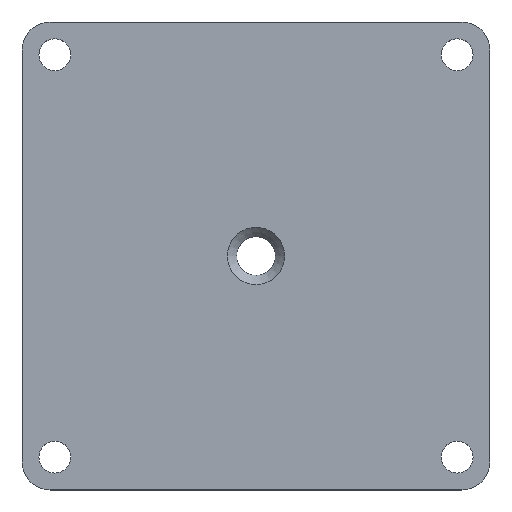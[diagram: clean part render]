
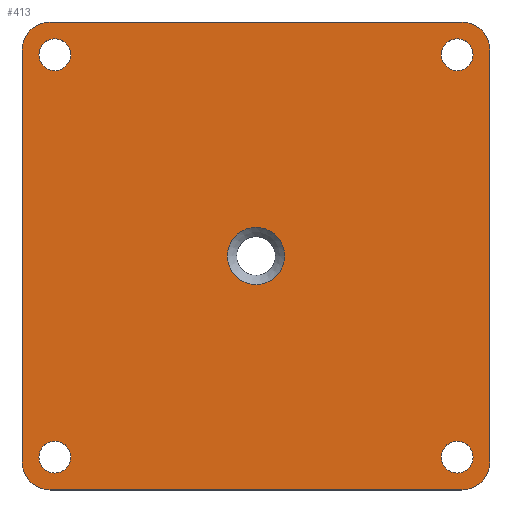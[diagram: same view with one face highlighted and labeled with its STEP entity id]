
A CAD part, top view. The second image highlights one B-rep face of the part: STEP entity #413.
In plain terms, the highlighted planar face has unit normal (0, 0, 1).
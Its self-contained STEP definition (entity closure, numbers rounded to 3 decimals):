
#15=FACE_BOUND('',#84,.T.);
#16=FACE_BOUND('',#85,.T.);
#17=FACE_BOUND('',#86,.T.);
#18=FACE_BOUND('',#87,.T.);
#19=FACE_BOUND('',#88,.T.);
#30=PLANE('',#462);
#57=FACE_OUTER_BOUND('',#83,.T.);
#83=EDGE_LOOP('',(#306,#307,#308,#309,#310,#311,#312,#313));
#84=EDGE_LOOP('',(#314));
#85=EDGE_LOOP('',(#315));
#86=EDGE_LOOP('',(#316));
#87=EDGE_LOOP('',(#317));
#88=EDGE_LOOP('',(#318));
#124=LINE('',#667,#151);
#125=LINE('',#671,#152);
#126=LINE('',#675,#153);
#127=LINE('',#678,#154);
#151=VECTOR('',#530,10.);
#152=VECTOR('',#533,10.);
#153=VECTOR('',#536,10.);
#154=VECTOR('',#539,10.);
#176=CIRCLE('',#458,3.067);
#179=CIRCLE('',#463,3.);
#180=CIRCLE('',#464,3.);
#181=CIRCLE('',#465,3.);
#182=CIRCLE('',#466,3.);
#183=CIRCLE('',#467,1.7);
#184=CIRCLE('',#468,1.7);
#185=CIRCLE('',#469,1.7);
#186=CIRCLE('',#470,1.7);
#205=VERTEX_POINT('',#653);
#208=VERTEX_POINT('',#663);
#209=VERTEX_POINT('',#664);
#210=VERTEX_POINT('',#666);
#211=VERTEX_POINT('',#668);
#212=VERTEX_POINT('',#670);
#213=VERTEX_POINT('',#672);
#214=VERTEX_POINT('',#674);
#215=VERTEX_POINT('',#676);
#216=VERTEX_POINT('',#679);
#217=VERTEX_POINT('',#681);
#218=VERTEX_POINT('',#683);
#219=VERTEX_POINT('',#685);
#242=EDGE_CURVE('',#205,#205,#176,.T.);
#247=EDGE_CURVE('',#208,#209,#179,.T.);
#248=EDGE_CURVE('',#208,#210,#124,.T.);
#249=EDGE_CURVE('',#211,#210,#180,.T.);
#250=EDGE_CURVE('',#211,#212,#125,.T.);
#251=EDGE_CURVE('',#213,#212,#181,.T.);
#252=EDGE_CURVE('',#213,#214,#126,.T.);
#253=EDGE_CURVE('',#215,#214,#182,.T.);
#254=EDGE_CURVE('',#215,#209,#127,.T.);
#255=EDGE_CURVE('',#216,#216,#183,.T.);
#256=EDGE_CURVE('',#217,#217,#184,.T.);
#257=EDGE_CURVE('',#218,#218,#185,.T.);
#258=EDGE_CURVE('',#219,#219,#186,.T.);
#306=ORIENTED_EDGE('',*,*,#247,.F.);
#307=ORIENTED_EDGE('',*,*,#248,.T.);
#308=ORIENTED_EDGE('',*,*,#249,.F.);
#309=ORIENTED_EDGE('',*,*,#250,.T.);
#310=ORIENTED_EDGE('',*,*,#251,.F.);
#311=ORIENTED_EDGE('',*,*,#252,.T.);
#312=ORIENTED_EDGE('',*,*,#253,.F.);
#313=ORIENTED_EDGE('',*,*,#254,.T.);
#314=ORIENTED_EDGE('',*,*,#255,.T.);
#315=ORIENTED_EDGE('',*,*,#256,.T.);
#316=ORIENTED_EDGE('',*,*,#257,.T.);
#317=ORIENTED_EDGE('',*,*,#258,.T.);
#318=ORIENTED_EDGE('',*,*,#242,.F.);
#413=ADVANCED_FACE('',(#57,#15,#16,#17,#18,#19),#30,.T.);
#458=AXIS2_PLACEMENT_3D('',#654,#516,#517);
#462=AXIS2_PLACEMENT_3D('',#662,#526,#527);
#463=AXIS2_PLACEMENT_3D('',#665,#528,#529);
#464=AXIS2_PLACEMENT_3D('',#669,#531,#532);
#465=AXIS2_PLACEMENT_3D('',#673,#534,#535);
#466=AXIS2_PLACEMENT_3D('',#677,#537,#538);
#467=AXIS2_PLACEMENT_3D('',#680,#540,#541);
#468=AXIS2_PLACEMENT_3D('',#682,#542,#543);
#469=AXIS2_PLACEMENT_3D('',#684,#544,#545);
#470=AXIS2_PLACEMENT_3D('',#686,#546,#547);
#516=DIRECTION('center_axis',(0.,0.,1.));
#517=DIRECTION('ref_axis',(-1.,0.,0.));
#526=DIRECTION('center_axis',(0.,0.,1.));
#527=DIRECTION('ref_axis',(1.,0.,0.));
#528=DIRECTION('center_axis',(0.,0.,-1.));
#529=DIRECTION('ref_axis',(-0.707,0.707,0.));
#530=DIRECTION('',(0.,-1.,0.));
#531=DIRECTION('center_axis',(0.,0.,-1.));
#532=DIRECTION('ref_axis',(-0.707,-0.707,0.));
#533=DIRECTION('',(1.,0.,0.));
#534=DIRECTION('center_axis',(0.,0.,-1.));
#535=DIRECTION('ref_axis',(0.707,-0.707,0.));
#536=DIRECTION('',(0.,1.,0.));
#537=DIRECTION('center_axis',(0.,0.,-1.));
#538=DIRECTION('ref_axis',(0.707,0.707,0.));
#539=DIRECTION('',(-1.,0.,0.));
#540=DIRECTION('center_axis',(0.,0.,-1.));
#541=DIRECTION('ref_axis',(1.,0.,0.));
#542=DIRECTION('center_axis',(0.,0.,-1.));
#543=DIRECTION('ref_axis',(1.,0.,0.));
#544=DIRECTION('center_axis',(0.,0.,-1.));
#545=DIRECTION('ref_axis',(1.,0.,0.));
#546=DIRECTION('center_axis',(0.,0.,-1.));
#547=DIRECTION('ref_axis',(1.,0.,0.));
#653=CARTESIAN_POINT('',(3.067,0.,2.5));
#654=CARTESIAN_POINT('Origin',(0.,0.,2.5));
#662=CARTESIAN_POINT('Origin',(0.,0.,2.5));
#663=CARTESIAN_POINT('',(-25.,22.,2.5));
#664=CARTESIAN_POINT('',(-22.,25.,2.5));
#665=CARTESIAN_POINT('Origin',(-22.,22.,2.5));
#666=CARTESIAN_POINT('',(-25.,-22.,2.5));
#667=CARTESIAN_POINT('',(-25.,25.,2.5));
#668=CARTESIAN_POINT('',(-22.,-25.,2.5));
#669=CARTESIAN_POINT('Origin',(-22.,-22.,2.5));
#670=CARTESIAN_POINT('',(22.,-25.,2.5));
#671=CARTESIAN_POINT('',(-25.,-25.,2.5));
#672=CARTESIAN_POINT('',(25.,-22.,2.5));
#673=CARTESIAN_POINT('Origin',(22.,-22.,2.5));
#674=CARTESIAN_POINT('',(25.,22.,2.5));
#675=CARTESIAN_POINT('',(25.,-25.,2.5));
#676=CARTESIAN_POINT('',(22.,25.,2.5));
#677=CARTESIAN_POINT('Origin',(22.,22.,2.5));
#678=CARTESIAN_POINT('',(25.,25.,2.5));
#679=CARTESIAN_POINT('',(-23.2,21.5,2.5));
#680=CARTESIAN_POINT('Origin',(-21.5,21.5,2.5));
#681=CARTESIAN_POINT('',(19.8,21.5,2.5));
#682=CARTESIAN_POINT('Origin',(21.5,21.5,2.5));
#683=CARTESIAN_POINT('',(-23.2,-21.5,2.5));
#684=CARTESIAN_POINT('Origin',(-21.5,-21.5,2.5));
#685=CARTESIAN_POINT('',(19.8,-21.5,2.5));
#686=CARTESIAN_POINT('Origin',(21.5,-21.5,2.5));
